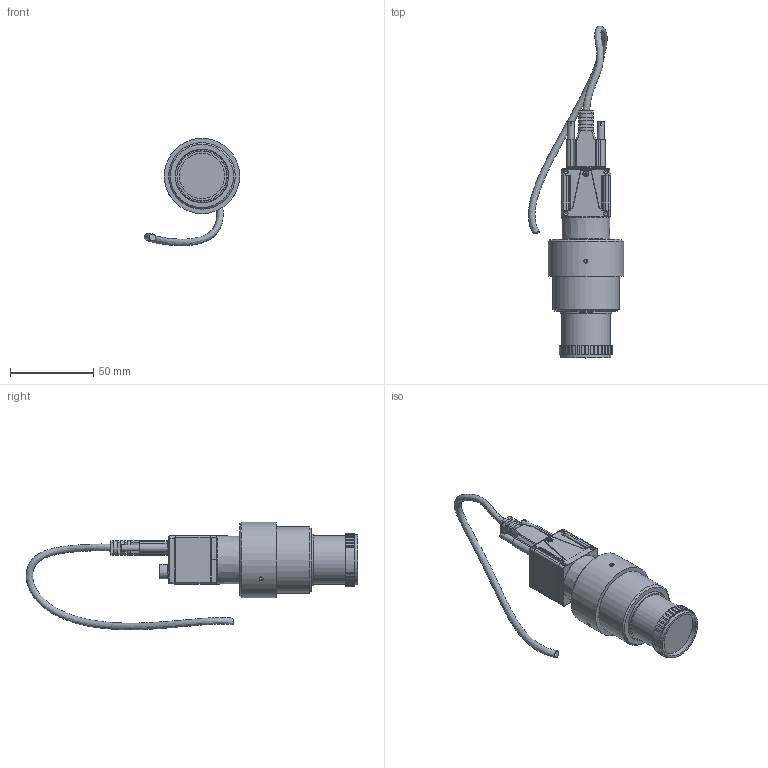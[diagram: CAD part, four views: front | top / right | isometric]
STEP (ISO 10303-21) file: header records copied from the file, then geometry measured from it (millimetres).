
FILE_DESCRIPTION(/* description */ ('OptiVID'),/* implementation_level */ '2;1');
FILE_NAME(/* name */ 'S:\Bureau-Technique\Vidéo\MA 730-006-101.stp',/* time_stamp */ '2018-04-09T17:09:53+02:00',/* author */ ('ms'),/* organization */ ('Marcel Aubert'),/* preprocessor_version */ 'ST-DEVELOPER v17',/* originating_system */ 'Autodesk Inventor 2018',/* authorisation */ '');
FILE_SCHEMA (('AUTOMOTIVE_DESIGN { 1 0 10303 214 3 1 1 }'));
Products named in the file (12): MA 730-006-101; CAM-120-284; MA 726-006-101; MA 726-006-000; MA 726-006-000-100; MA 726-007-000-101; 88-057-11; ISO 4026 - M3 x 8; ISO 4026 - M2 x 3; CAB-156-030; CNT-052-03; CAB-083(b)
Assembly tree (14 placements, depth 4):
  MA 730-006-101
    CAM-120-284
    MA 726-006-101
      MA 726-006-000
        MA 726-006-000-100
        MA 726-007-000-101
      88-057-11
      ISO 4026 - M3 x 8  x3
      ISO 4026 - M2 x 3  x2
    CAB-156-030
      CNT-052-03
      CAB-083(b)
Bounding box: 57.24 x 199.57 x 64.62 mm (x, y, z)
Volume: 98958.7 mm3; surface area: 41502.5 mm2
Topology: 18 solids, 18 shells, 1200 faces, 3284 edges, 2174 vertices
Faces by surface type: plane 777, cylinder 303, cone 56, bspline 35, torus 27, sphere 2
Full cylindrical faces by diameter (mm): 0.4 x8, 1.567 x2, 1.6 x2, 2 x4, 2.459 x3, 2.5 x4, 3 x5, 3.2 x1, 3.9 x2, 6.8 x1, 8.5 x1, 8.6 x3, 10 x1, 10.6 x1, 19 x1, 24.5 x1, 24.8 x1, 25.4 x1, 26 x1, 27.3 x1, 29 x3, 30 x2, 31 x2, 32.1 x1, 40 x1, 45.3 x1
Entity records: 51637 total; most frequent: CARTESIAN_POINT 20881, ORIENTED_EDGE 6366, DIRECTION 6212, EDGE_CURVE 3183, LINE 2220, VECTOR 2220, VERTEX_POINT 2114, AXIS2_PLACEMENT_3D 1996
